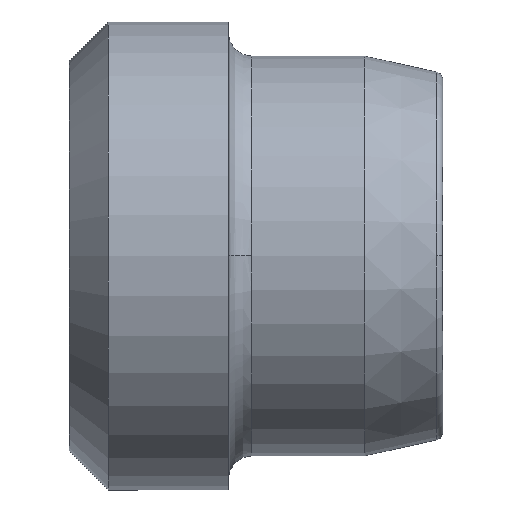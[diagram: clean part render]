
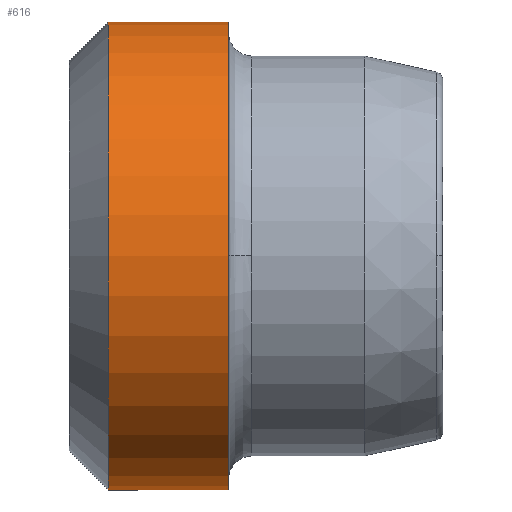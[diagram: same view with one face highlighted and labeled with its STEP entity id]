
A CAD part, top view. The second image highlights one B-rep face of the part: STEP entity #616.
In plain terms, the highlighted cylindrical face has radius 6 mm (diameter 12 mm), a partial arc.
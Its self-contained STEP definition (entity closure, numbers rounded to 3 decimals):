
#575=CARTESIAN_POINT('',(-2.787,0.467,0.0));
#576=DIRECTION('',(1.0,0.0,0.0));
#577=DIRECTION('',(0.0,1.0,0.0));
#578=AXIS2_PLACEMENT_3D('',#575,#576,#577);
#579=CYLINDRICAL_SURFACE('',#578,6.);
#580=CARTESIAN_POINT('',(-3.825,6.467,0.0));
#581=VERTEX_POINT('',#580);
#582=CARTESIAN_POINT('',(-0.75,6.467,0.0));
#583=VERTEX_POINT('',#582);
#584=CARTESIAN_POINT('',(-3.825,6.467,0.0));
#585=DIRECTION('',(1.0,0.0,0.0));
#586=VECTOR('',#585,3.075);
#587=LINE('',#584,#586);
#588=EDGE_CURVE('',#581,#583,#587,.T.);
#589=ORIENTED_EDGE('',*,*,#588,.F.);
#590=CARTESIAN_POINT('',(-3.825,-5.533,0.));
#591=VERTEX_POINT('',#590);
#592=CARTESIAN_POINT('',(-3.825,0.467,0.0));
#593=DIRECTION('',(-1.0,0.0,0.0));
#594=DIRECTION('',(0.0,-1.0,0.0));
#595=AXIS2_PLACEMENT_3D('',#592,#593,#594);
#596=CIRCLE('',#595,6.);
#597=EDGE_CURVE('',#591,#581,#596,.T.);
#598=ORIENTED_EDGE('',*,*,#597,.F.);
#599=CARTESIAN_POINT('',(-0.75,-5.533,0.));
#600=VERTEX_POINT('',#599);
#601=CARTESIAN_POINT('',(-0.75,-5.533,0.));
#602=DIRECTION('',(-1.0,0.0,0.0));
#603=VECTOR('',#602,3.075);
#604=LINE('',#601,#603);
#605=EDGE_CURVE('',#600,#591,#604,.T.);
#606=ORIENTED_EDGE('',*,*,#605,.F.);
#607=CARTESIAN_POINT('',(-0.75,0.467,0.0));
#608=DIRECTION('',(1.0,0.0,0.0));
#609=DIRECTION('',(0.0,1.0,0.0));
#610=AXIS2_PLACEMENT_3D('',#607,#608,#609);
#611=CIRCLE('',#610,6.0);
#612=EDGE_CURVE('',#583,#600,#611,.T.);
#613=ORIENTED_EDGE('',*,*,#612,.F.);
#614=EDGE_LOOP('',(#589,#598,#606,#613));
#615=FACE_OUTER_BOUND('',#614,.T.);
#616=ADVANCED_FACE('',(#615),#579,.T.);
